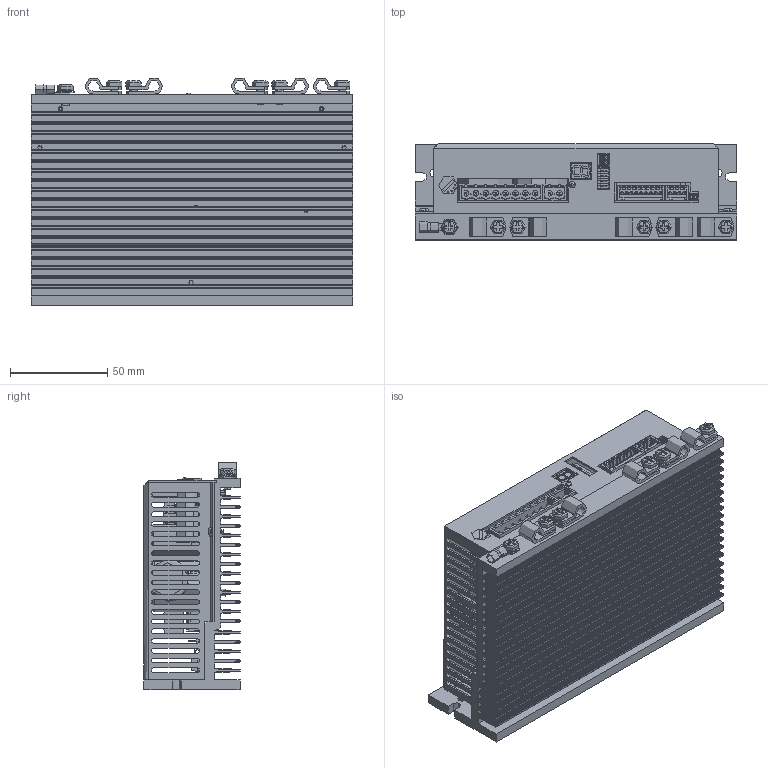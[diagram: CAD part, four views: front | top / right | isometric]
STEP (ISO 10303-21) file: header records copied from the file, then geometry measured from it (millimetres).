
FILE_DESCRIPTION((''),'2;1');
FILE_NAME('SW1A4085_ASM','2013-02-04T',('Renato Bisson'),(''),'PRO/ENGINEER BY PARAMETRIC TECHNOLOGY CORPORATION, 2006320','PRO/ENGINEER BY PARAMETRIC TECHNOLOGY CORPORATION, 2006320','');
FILE_SCHEMA(('CONFIG_CONTROL_DESIGN'));
Products named in the file (199): ESTRUSO_DMD30; AD-00796-00; BOARD-1853; MANIFOLD_SOLID_BREP_32327; MANIFOLD_SOLID_BREP_52658; OPEN_CASCADE_STEP_TRANSLA-32326_ASM; OPEN_CASCADE_STEP_TRANSLA-67556; 956224883_ASM; CN5A_ASM; CN5B_ASM; CN07MCG; CN4_ASM; BOARD-116721; USER_LIBRARY-ARRAY-1206--119740; USER_LIBRARY-ARRAY-1206--129449; USER_LIBRARY-ARRAY-1206--131682; USER_LIBRARY-ARRAY-1206--138115; USER_LIBRARY-ARRAY-1206--119718_ASM; RN204_ASM; RN203_ASM; RN202_ASM; RN201_ASM; RN200_ASM; TDS; VIS400_ASM; MANIFOLD_SOLID_BREP_149270; MANIFOLD_SOLID_BREP_151921; SW3DPS-LED_1206-DEFAULT_ASM; LED200_ASM; USER_LIBRARY-TDA04_DIPSWITCH_SW; USER_LIBRARY-TDA04_DIPSWITCH_PI; USER_LIBRARY-TDA04_DIPSWITCH_BO; USER_LIBRARY-TDA04_ASM; DIP2_ASM; SW3DPS-HRM-08-T_ACIS_SOLID_5648; SW3DPS-HRM-08-T_ACIS_SOLID_5998; SW3DPS-HRM-08-T_ACIS_SOLID_5337; SW3DPS-HRM-08-T_PART_9642; SW3DPS-HRM-08-T_ACIS_SOLID_7487; SW3DPS-HRM-08-T_ACIS_SOLID_6309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
Assembly tree (248 placements, depth 12):
  SW1A4085_ASM
    ESTRUSO_DMD30
    AD-00796-00
    DMD30VNNR00-00_ASM
      PCB_ASM
        BOARD-1853
        CN5A_ASM
          956224883_ASM
            OPEN_CASCADE_STEP_TRANSLA-32326_ASM
              MANIFOLD_SOLID_BREP_32327
              MANIFOLD_SOLID_BREP_52658
            OPEN_CASCADE_STEP_TRANSLA-67556
        CN5B_ASM
          956224883_ASM
            OPEN_CASCADE_STEP_TRANSLA-32326_ASM
              MANIFOLD_SOLID_BREP_32327
              MANIFOLD_SOLID_BREP_52658
            OPEN_CASCADE_STEP_TRANSLA-67556
        CN4_ASM
          CN07MCG
        J3_ASM
          DMD30VIS-00_ASM
            BOARD-116721
            RN204_ASM
              USER_LIBRARY-ARRAY-1206--119718_ASM
                USER_LIBRARY-ARRAY-1206--119740
                USER_LIBRARY-ARRAY-1206--129449
                USER_LIBRARY-ARRAY-1206--131682
                USER_LIBRARY-ARRAY-1206--138115
            RN203_ASM
              USER_LIBRARY-ARRAY-1206--119718_ASM
                USER_LIBRARY-ARRAY-1206--119740
                USER_LIBRARY-ARRAY-1206--129449
                USER_LIBRARY-ARRAY-1206--131682
                USER_LIBRARY-ARRAY-1206--138115
            RN202_ASM
              USER_LIBRARY-ARRAY-1206--119718_ASM
                USER_LIBRARY-ARRAY-1206--119740
                USER_LIBRARY-ARRAY-1206--129449
                USER_LIBRARY-ARRAY-1206--131682
                USER_LIBRARY-ARRAY-1206--138115
            RN201_ASM
              USER_LIBRARY-ARRAY-1206--119718_ASM
                USER_LIBRARY-ARRAY-1206--119740
                USER_LIBRARY-ARRAY-1206--129449
                USER_LIBRARY-ARRAY-1206--131682
                USER_LIBRARY-ARRAY-1206--138115
            RN200_ASM
              USER_LIBRARY-ARRAY-1206--119718_ASM
                USER_LIBRARY-ARRAY-1206--119740
                USER_LIBRARY-ARRAY-1206--129449
                USER_LIBRARY-ARRAY-1206--131682
                USER_LIBRARY-ARRAY-1206--138115
            VIS400_ASM
              TDS
            LED200_ASM
              SW3DPS-LED_1206-DEFAULT_ASM
                MANIFOLD_SOLID_BREP_149270
                MANIFOLD_SOLID_BREP_151921
            DIP2_ASM
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Bounding box: 165 x 49.3 x 116.69 mm (x, y, z)
Topology: 244 solids, 784 shells, 13580 faces, 38473 edges, 25592 vertices
Faces by surface type: plane 10814, cylinder 1628, extrusion 774, sphere 158, torus 116, bspline 46, cone 44
Full cylindrical faces by diameter (mm): 0.03 x4, 0.1 x8, 0.2 x22, 0.3 x4, 0.316 x6, 0.4 x2, 0.401 x4, 0.422 x10, 0.434 x5, 0.457 x9, 0.5 x5, 0.8 x4, 0.868 x2, 0.913 x8, 1 x13, 1.1 x32, 1.2 x17, 1.25 x14, 1.807 x4, 1.902 x4, 3 x14, 6 x8
Entity records: 387157 total; most frequent: CARTESIAN_POINT 76011, ORIENTED_EDGE 47756, DIRECTION 44435, EDGE_CURVE 25743, PRESENTATION_STYLE_ASSIGNMENT 22450, STYLED_ITEM 20951, CURVE_STYLE 20446, VECTOR 20433
